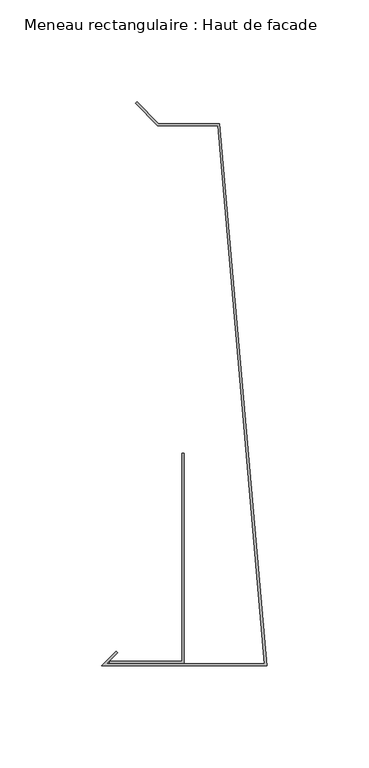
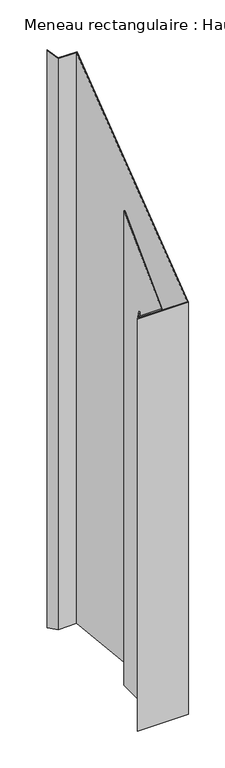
"""IFC4 building model written with IfcOpenShell, lengths in millimetres: member geometry, Meneau rectangulaire : Haut de facade."""

from ifc_helpers import new_model, si_unit, origin, place, context, project, spatial, faceted_brep, source, transform, mapped, element, save


def meneau_rectangulaire_haut_de_facade_d7324de5(model_context):
    return source(origin(), model_context, "Body", "Brep", [
        faceted_brep([(-24.0647895, 160.703755, -792.6690827), (-53.5626719, 160.703755, -792.6690827), (-64.4621669, 171.6032499, -792.6690827), (-63.7550601, 172.3103567, -792.6690827), (-53.1484584, 161.703755, -792.6690827), (-23.1484584, 161.703755, -792.6690827), (0.0, -104.2, -792.6690827), (-81.0, -104.2, -792.6690827), (-73.9289322, -97.1289322, -792.6690827), (-73.2218254, -97.836039, -792.6690827), (-78.5857864, -103.2, -792.6690827), (-1.0913085, -103.2, -792.6690827), (-1.0913085, -103.2, -103.2), (-24.0647895, 160.703755, 160.703755), (-78.5857864, -103.2, -103.2), (-73.2218254, -97.836039, -97.836039), (-73.9289322, -97.1289322, -97.1289322), (-81.0, -104.2, -104.2), (0.0, -104.2, -104.2), (-23.1484584, 161.703755, 161.703755), (-53.1484584, 161.703755, 161.703755), (-63.7550601, 172.3103567, 172.3103567), (-64.4621669, 171.6032499, 171.6032499), (-53.5626719, 160.703755, 160.703755)], [[[0, 1, 2, 3, 4, 5, 6, 7, 8, 9, 10, 11]], [[12, 13, 0, 11]], [[14, 12, 11, 10]], [[15, 14, 10, 9]], [[16, 15, 9, 8]], [[17, 16, 8, 7]], [[18, 17, 7, 6]], [[19, 18, 6, 5]], [[20, 19, 5, 4]], [[21, 20, 4, 3]], [[22, 21, 3, 2]], [[23, 22, 2, 1]], [[13, 23, 1, 0]], [[13, 12, 14, 15, 16, 17, 18, 19, 20, 21, 22, 23]]]),
        faceted_brep([(-40.5477541, -102.9846816, -792.6690827), (-77.0752814, -102.9846816, -792.6690827), (-77.0752814, -101.9846816, -792.6690827), (-41.5477541, -101.9846816, -792.6690827), (-41.5477541, -0.0384227, -792.6690827), (-40.5477541, -0.0384227, -792.6690827), (-40.5477541, -0.0384227, -0.0384227), (-40.5477541, -102.9846816, -102.9846816), (-41.5477541, -0.0384227, -0.0384227), (-41.5477541, -101.9846816, -101.9846816), (-77.0752814, -101.9846816, -101.9846816), (-77.0752814, -102.9846816, -102.9846816)], [[[0, 1, 2, 3, 4, 5]], [[6, 7, 0, 5]], [[8, 6, 5, 4]], [[9, 8, 4, 3]], [[10, 9, 3, 2]], [[11, 10, 2, 1]], [[7, 11, 1, 0]], [[7, 6, 8, 9, 10, 11]]]),
    ])


if __name__ == "__main__":
    model = new_model("IFC4")
    model_context = context("Model", 3, world=origin())
    ifc_project = project(units=[si_unit("LENGTHUNIT", "METRE", prefix="MILLI")], contexts=[model_context])
    site = spatial("IfcSite", under=ifc_project)
    building = spatial("IfcBuilding", under=site)
    placement = place(None, origin())
    meneau_rectangulaire_haut_de_facade_shape = meneau_rectangulaire_haut_de_facade_d7324de5(model_context)
    element("IfcMember", 1, ObjectType="Meneau rectangulaire : Haut de facade", at=placement, inside=building, context=model_context, shape_type="MappedRepresentation", body=[
        mapped(meneau_rectangulaire_haut_de_facade_shape, transform((0.0, 0.0, 0.0), x_axis=(1.0, 0.0, 0.0), y_axis=(0.0, 1.0, 0.0), z_axis=(0.0, 0.0, 1.0))),
    ])
    save(model, "model.ifc")
